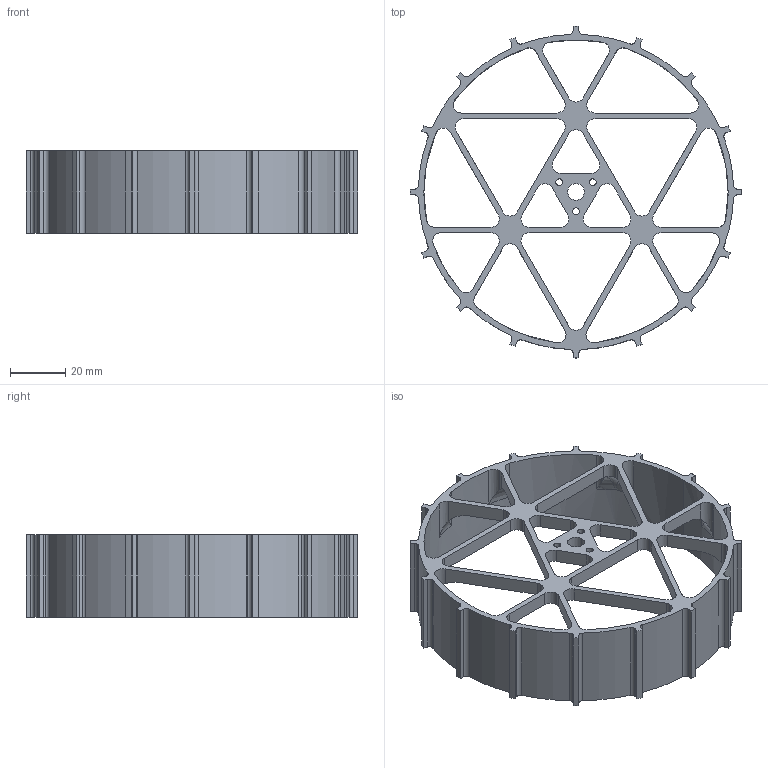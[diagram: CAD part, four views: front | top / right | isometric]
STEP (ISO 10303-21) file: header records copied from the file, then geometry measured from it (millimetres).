
FILE_DESCRIPTION (( 'STEP AP214' ), '1' );
FILE_NAME ('Kitsam.STEP', '2025-05-19T12:12:15', ( '' ), ( '' ), 'SwSTEP 2.0', 'SolidWorks 2024', '' );
FILE_SCHEMA (( 'AUTOMOTIVE_DESIGN' ));
Length unit declared in the file: millimetre
Products named in the file (1): Kitsam
Bounding box: 120 x 120 x 30 mm (x, y, z)
Volume: 33388.4 mm3; surface area: 33625.9 mm2
Topology: 1 solids, 1 shells, 238 faces, 729 edges, 479 vertices
Faces by surface type: cylinder 140, plane 71, torus 18, bspline 9
Entity records: 11217 total; most frequent: CARTESIAN_POINT 4505, ORIENTED_EDGE 1452, DIRECTION 1415, EDGE_CURVE 726, AXIS2_PLACEMENT_3D 528, VERTEX_POINT 479, LINE 359, VECTOR 359
